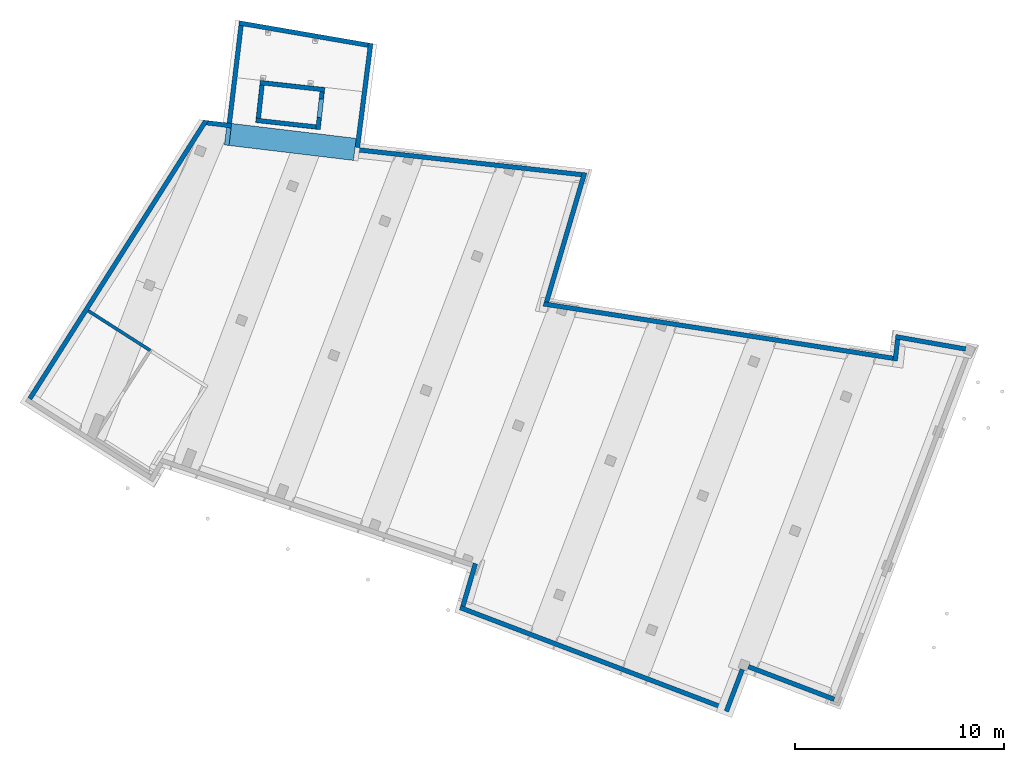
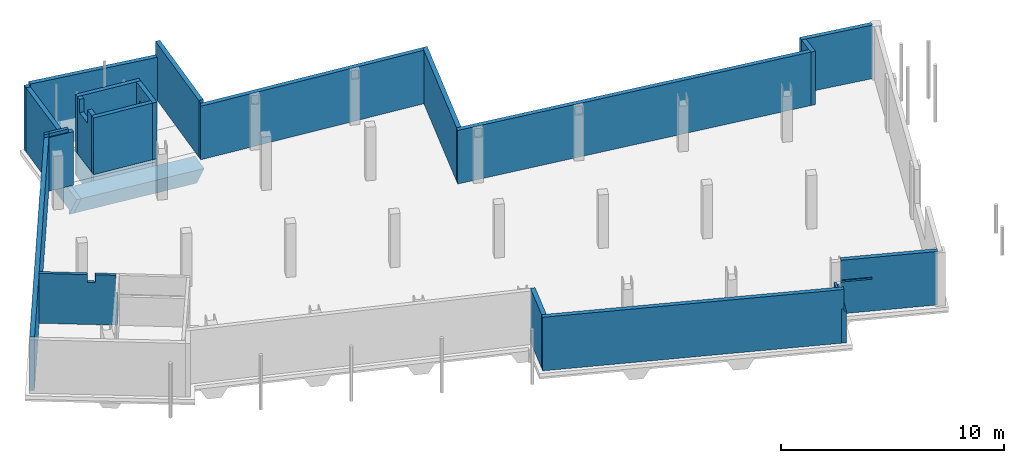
# One storey, part 7 of 11: 24 walls, 3 openings.
"""IFC2X3 building model written with IfcOpenShell, lengths in millimetres."""

from ifc_helpers import new_model, entity, si_unit, converted_unit, derived_unit, direction, frame, frame_2d, origin, place, context, subcontext, project, spatial, polyline, rectangle, outline, extrude, clip, bounded_halfspace, faceted_brep, material, layer, layer_set, layer_usage, type_object, element, save


model = new_model("IFC2X3")

# Units and contexts
model_context = context("Model", 3, precision=0.01, world=origin(), true_north=direction((6.123233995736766e-17, 1.0)))
body_context = subcontext(model_context, "Body", "Model", "MODEL_VIEW")
ifc_project = project(units=[si_unit("LENGTHUNIT", "METRE", prefix="MILLI"), converted_unit("PLANEANGLEUNIT", "DEGREE", entity("IfcPlaneAngleMeasure", 0.017453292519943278), si_unit("PLANEANGLEUNIT", "RADIAN"), dimensions=[0, 0, 0, 0, 0, 0, 0]), si_unit("AREAUNIT", "SQUARE_METRE"), derived_unit("THERMALTRANSMITTANCEUNIT", [(si_unit("MASSUNIT", "GRAM", prefix="KILO"), 1), (si_unit("THERMODYNAMICTEMPERATUREUNIT", "KELVIN"), -1), (si_unit("TIMEUNIT", "SECOND"), -3)])], contexts=[model_context])

# Site, building, storey
site_placement = place(None, frame((-72937.88054949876, 11621.45624098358, 0.0), z_axis=(0.0, 0.0, 1.0), x_axis=(0.9346418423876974, -0.35559053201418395, 0.0)))
site = spatial("IfcSite", under=ifc_project, at=site_placement, Name="Default", CompositionType="ELEMENT")
building_placement = place(site_placement, origin())
building = spatial("IfcBuilding", under=site, at=building_placement, CompositionType="ELEMENT")
storey_placement = place(building_placement, frame((0.0, 0.0, -3160.0)))
storey = spatial("IfcBuildingStorey", under=building, at=storey_placement, Name="-1 kelder", CompositionType="ELEMENT", Elevation=-3160.0)

# Wall, opening
ifc_material_1 = material(Name="beton_gewapend_ihw")
ifc_layer_1 = layer(ifc_material_1, 220.0)
ifc_layer_set_1 = layer_set([ifc_layer_1], Name="Basic Wall:22.21_WA_Beton 220mm")
ifc_layer_usage_1 = layer_usage(ifc_layer_set_1, "AXIS2", "NEGATIVE", 110.0)
wall_type_1 = type_object("IfcWallType", Name="22.21_muur", PredefinedType="STANDARD", material=ifc_layer_set_1)
wall_1_placement = place(storey_placement, frame((52730.0, 15000.0, 0.0), z_axis=(0.0, 0.0, 1.0), x_axis=(-1.0, 0.0, 0.0)))
wall_1 = element("IfcWallStandardCase", 1, at=wall_1_placement, inside=storey, type_object=wall_type_1, material=ifc_layer_usage_1, Name="Basic Wall:22.21_WA_Beton 220mm", ObjectType="Basic Wall:22.21_WA_Beton 220mm", context=body_context, shape_type="Clipping", body=[
    clip(extrude(rectangle(XDim=4394.999999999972, YDim=219.9999999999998, at=frame_2d((2197.499999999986, 5.471179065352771e-13), x_axis=(-1.0, 0.0))), origin(), (0.0, 0.0, 1.0), 2930.0), bounded_halfspace(frame((0.0, -110.0, 2930.0), z_axis=(0.0, 0.0, -1.0), x_axis=(-0.1996728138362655, -0.9798626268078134, 0.0)), True, frame((0.0, -110.0, 2930.0), z_axis=(0.0, 0.0, -1.0), x_axis=(-0.1996728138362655, -0.9798626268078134, 0.0)), polyline([(0.0, 0.0), (-215.56977789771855, 43.928019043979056), (-238.53215148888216, -68.75618303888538), (-786.6340254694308, -2758.479093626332), (-812.5914912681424, -2885.8612351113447), (-856.519510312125, -3101.4310130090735), (-1093.1317947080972, -4262.568225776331), (-877.5620168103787, -4306.4962448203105), (-22.9623735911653, -112.6842020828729), (0.0, 0.0)]))),
])
opening_1_placement = place(storey_placement, frame((52730.0, 15000.0, 0.0), z_axis=(0.0, 0.0, 1.0), x_axis=(-1.0, 0.0, 0.0)))
element("IfcOpeningElement", 2, at=opening_1_placement, cuts=wall_1, Name="Basic Wall:22.21_WA_Beton 220mm:1", ObjectType="Opening", context=body_context, shape_type="SweptSolid", body=[
    extrude(rectangle(XDim=109.99999999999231, YDim=1405.0000000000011, at=frame_2d((0.0, 4.320099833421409e-12), x_axis=(1.0, 0.0))), frame((3692.499999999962, 55.0, 1740.0), z_axis=(0.0, 0.0, 1.0), x_axis=(0.0, -1.0, 0.0)), (0.0, 0.0, 1.0), 120.00000000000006),
])

# Walls
ifc_layer_usage_2 = layer_usage(ifc_layer_set_1, "AXIS2", "NEGATIVE", 110.0)
wall_2_placement = place(storey_placement, frame((48110.0, 14775.0, 0.0), z_axis=(0.0, 0.0, 1.0), x_axis=(0.0, -1.0, 0.0)))
element("IfcWallStandardCase", 3, at=wall_2_placement, inside=storey, type_object=wall_type_1, material=ifc_layer_usage_2, Name="Basic Wall:22.21_WA_Beton 220mm", ObjectType="Basic Wall:22.21_WA_Beton 220mm", context=body_context, shape_type="Clipping", body=[
    clip(clip(extrude(rectangle(XDim=2152.0179214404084, YDim=220.00000000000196, at=frame_2d((1076.0089607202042, 0.0), x_axis=(-1.0, 0.0))), origin(), (0.0, 0.0, 1.0), 1860.0), bounded_halfspace(frame((0.0, 0.0, 1740.0), z_axis=(0.0, 0.0, -1.0), x_axis=(-1.0, 0.0, 0.0)), True, frame((0.0, 0.0, 1740.0), z_axis=(0.0, 0.0, -1.0), x_axis=(-1.0, 0.0, 0.0)), polyline([(0.0, 0.0), (0.0, 110.0), (-2152.0179214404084, 110.0), (-2152.0179214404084, 0.0), (0.0, 0.0)]))), bounded_halfspace(frame((2152.0179214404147, 0.0, 1740.0), z_axis=(0.0, -1.0, 0.0), x_axis=(0.0, 0.0, 1.0)), True, frame((2152.0179214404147, 0.0, 1740.0), z_axis=(0.0, -1.0, 0.0), x_axis=(0.0, 0.0, 1.0)), polyline([(0.0, 0.0), (120.0, 0.0), (120.0, 2152.0179214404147), (0.0, 2152.0179214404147), (0.0, 0.0)]))),
])
wall_3_placement = place(storey_placement, frame((48110.0, 12732.982078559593, 0.0), z_axis=(0.0, 0.0, 1.0), x_axis=(-1.0, 0.0, 0.0)))
element("IfcWall", 4, at=wall_3_placement, inside=storey, type_object=wall_type_1, Name="Basic Wall:22.21_WA_Beton 220mm", ObjectType="Basic Wall:22.21_WA_Beton 220mm", context=body_context, shape_type="Brep", body=[
    faceted_brep([(110.0, -110.0, 0.0), (13481.131771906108, -110.0, 0.0), (13701.813186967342, -110.0, 0.0), (13701.813186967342, -110.0, 2930.0), (13481.131771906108, -110.0, 2930.0), (0.0, -110.0, 2930.0), (0.0, -110.0, 1860.0), (110.0, -110.0, 1860.0), (13684.484397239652, 110.0, 0.0), (110.0, 110.0, 0.0), (110.0, 110.0, 1860.0), (0.0, 110.0, 1860.0), (0.0, 110.0, 2930.0), (13684.484397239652, 110.0, 2930.0)], [[[0, 1, 2, 3, 4, 5, 6, 7]], [[8, 9, 10, 11, 12, 13]], [[2, 1, 0, 9, 8]], [[2, 8, 13, 3]], [[11, 6, 5, 12]], [[6, 11, 10, 7]], [[9, 0, 7, 10]], [[5, 4, 3, 13, 12]]]),
])
ifc_layer_usage_3 = layer_usage(ifc_layer_set_1, "AXIS2", "NEGATIVE", 110.0)
wall_4_placement = place(storey_placement, frame((34519.20788359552, 12834.344437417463, 0.0), z_axis=(0.0, 0.0, 1.0), x_axis=(-0.07852401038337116, 0.9969122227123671, 0.0)))
element("IfcWallStandardCase", 5, at=wall_4_placement, inside=storey, type_object=wall_type_1, material=ifc_layer_usage_3, Name="Basic Wall:22.21_WA_Beton 220mm", ObjectType="Basic Wall:22.21_WA_Beton 220mm", context=body_context, shape_type="Clipping", body=[
    clip(extrude(outline(polyline([(2134.992372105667, -110.0), (2143.5858208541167, 110.0), (1923.4180499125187, 110.0), (17.328789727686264, 110.0), (0.0, -110.0), (2134.992372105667, -110.0)])), origin(), (0.0, 0.0, 1.0), 2930.0), bounded_halfspace(frame((0.0, -110.0, 2930.0), z_axis=(0.0, 0.0, -1.0), x_axis=(0.9611579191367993, -0.2759990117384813, 0.0)), True, frame((0.0, -110.0, 2930.0), z_axis=(0.0, 0.0, -1.0), x_axis=(0.9611579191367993, -0.2759990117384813, 0.0)), polyline([(0.0, 0.0), (-44.0640791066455, -216.23747104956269), (1787.988707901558, -742.3162231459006), (1999.6047044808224, -803.0823103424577), (2052.0648257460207, -589.2557847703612), (0.0, 0.0)]))),
])
ifc_layer_usage_4 = layer_usage(ifc_layer_set_1, "AXIS2", "NEGATIVE", 110.0)
wall_5_placement = place(storey_placement, frame((11585.967735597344, 14756.93719287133, 0.0), z_axis=(0.0, 0.0, 1.0), x_axis=(0.19967281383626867, 0.9798626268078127, 0.0)))
element("IfcWallStandardCase", 6, at=wall_5_placement, inside=storey, type_object=wall_type_1, material=ifc_layer_usage_4, Name="Basic Wall:22.21_WA_Beton 220mm", ObjectType="Basic Wall:22.21_WA_Beton 220mm", context=body_context, shape_type="Clipping", body=[
    clip(clip(extrude(outline(polyline([(15840.016964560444, -110.0), (15735.040849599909, 110.0), (0.0, 110.0), (0.0, -110.0), (15596.254816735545, -110.0), (15840.016964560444, -110.0)])), origin(), (0.0, 0.0, 1.0), 3100.0), bounded_halfspace(frame((15662.73540250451, -110.0, 2930.0), z_axis=(0.0, 0.0, -1.0), x_axis=(1.0, 0.0, 0.0)), True, frame((15662.73540250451, -110.0, 2930.0), z_axis=(0.0, 0.0, -1.0), x_axis=(1.0, 0.0, 0.0)), polyline([(0.0, 0.0), (-66.48058576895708, 0.0), (-15662.735402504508, 0.0), (-15662.735402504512, -220.0), (-104.97611496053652, -220.0), (0.0, 0.0)]))), bounded_halfspace(frame((15557.759287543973, 110.0, 2930.0), z_axis=(0.9025191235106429, 0.43064977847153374, 0.0), x_axis=(0.0, 0.0, 1.0)), True, frame((15557.759287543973, 110.0, 2930.0), z_axis=(0.9025191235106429, 0.43064977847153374, 0.0), x_axis=(0.0, 0.0, 1.0)), polyline([(0.0, 0.0), (170.0, 0.0), (170.0, 243.76214782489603), (0.0, 243.76214782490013), (0.0, 0.0)]))),
])
ifc_layer_usage_5 = layer_usage(ifc_layer_set_1, "AXIS2", "NEGATIVE", 110.0)
wall_6_placement = place(storey_placement, frame((52650.088888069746, 32927.36828828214, 0.0), z_axis=(0.0, 0.0, 1.0), x_axis=(-0.9822397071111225, -0.18763037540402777, 0.0)))
element("IfcWallStandardCase", 7, at=wall_6_placement, inside=storey, type_object=wall_type_1, material=ifc_layer_usage_5, Name="Basic Wall:22.21_WA_Beton 220mm", ObjectType="Basic Wall:22.21_WA_Beton 220mm", context=body_context, shape_type="Clipping", body=[
    clip(extrude(outline(polyline([(3411.118875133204, -110.0), (3396.9713056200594, 110.0), (3176.5168801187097, 110.0), (56.73587512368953, 110.0), (0.0, 110.0), (0.0, -110.0), (14.710815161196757, -110.0), (3411.118875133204, -110.0)])), origin(), (0.0, 0.0, 1.0), 2930.0), bounded_halfspace(frame((14.710815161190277, -110.0, 2930.0), z_axis=(0.0, 0.0, -1.0), x_axis=(-0.37997855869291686, -0.9249952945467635, 0.0)), True, frame((14.710815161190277, -110.0, 2930.0), z_axis=(0.0, 0.0, -1.0), x_axis=(-0.37997855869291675, -0.9249952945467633, 0.0)), polyline([(0.0, 0.0), (5.589794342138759, 13.607434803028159), (-197.90917045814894, 97.20271771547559), (-219.4675865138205, 44.72230019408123), (-1404.9174762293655, -2841.06044944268), (-1488.6854310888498, -3044.9797556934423), (-1290.5622393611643, -3141.661473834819), (0.0, 0.0)]))),
])
ifc_layer_usage_6 = layer_usage(ifc_layer_set_1, "AXIS2", "NEGATIVE", 110.0)
wall_7_placement = place(storey_placement, frame((49440.58725850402, 32209.47754630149, 0.0), z_axis=(0.0, 0.0, 1.0), x_axis=(0.2502784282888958, -0.9681739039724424, 0.0)))
element("IfcWallStandardCase", 8, at=wall_7_placement, inside=storey, type_object=wall_type_1, material=ifc_layer_usage_6, Name="Basic Wall:22.21_WA_Beton 220mm", ObjectType="Basic Wall:22.21_WA_Beton 220mm", context=body_context, shape_type="Clipping", body=[
    clip(extrude(outline(polyline([(1041.2983913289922, -110.0), (1050.9208709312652, 110.0), (14.147569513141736, 110.0), (0.0, -110.0), (821.0880552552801, -110.0), (1041.2983913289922, -110.0)])), origin(), (0.0, 0.0, 1.0), 2930.0), bounded_halfspace(frame((821.0880552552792, -110.0, 2930.0), z_axis=(0.0, 0.0, -1.0), x_axis=(-0.8987036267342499, 0.43855648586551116, 0.0)), True, frame((821.0880552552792, -110.0, 2930.0), z_axis=(0.0, 0.0, -1.0), x_axis=(-0.8987036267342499, 0.43855648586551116, 0.0)), polyline([(0.0, 0.0), (737.9148131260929, -360.09349209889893), (821.6827679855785, -156.1741858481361), (-110.06915810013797, 298.5094698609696), (-197.90382767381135, 96.57467113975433), (0.0, 0.0)]))),
])
ifc_layer_usage_7 = layer_usage(ifc_layer_set_1, "AXIS2", "NEGATIVE", 110.0)
wall_8_placement = place(storey_placement, frame((49571.85199044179, 31281.389395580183, 0.0), z_axis=(0.0, 0.0, 1.0), x_axis=(-0.9781855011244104, -0.20773330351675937, 0.0)))
element("IfcWallStandardCase", 9, at=wall_8_placement, inside=storey, type_object=wall_type_1, material=ifc_layer_usage_7, Name="Basic Wall:22.21_WA_Beton 220mm", ObjectType="Basic Wall:22.21_WA_Beton 220mm", context=body_context, shape_type="Clipping", body=[
    clip(extrude(outline(polyline([(16945.537221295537, -110.0), (16974.758350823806, 110.0), (16254.28166288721, 110.0), (15794.246220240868, 110.0), (11418.798010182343, 110.0), (10958.762567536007, 110.0), (0.0, 110.0), (9.622479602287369, -110.0), (16723.605082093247, -110.0), (16945.537221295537, -110.0)])), origin(), (0.0, 0.0, 1.0), 2930.0), bounded_halfspace(frame((16723.605082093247, -110.0, 2930.0), z_axis=(0.0, 0.0, -1.0), x_axis=(-0.398867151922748, -0.9170087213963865, 0.0)), True, frame((16723.605082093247, -110.0, 2930.0), z_axis=(0.0, 0.0, -1.0), x_axis=(-0.398867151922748, -0.9170087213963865, 0.0)), polyline([(0.0, 0.0), (6666.658637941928, 15326.867815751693), (6468.754810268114, 15423.44248689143), (2097.66439635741, 5374.161636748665), (1914.1713695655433, 4952.305123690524), (168.94880363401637, 939.9809550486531), (-14.54422315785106, 518.1244419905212), (-301.91870770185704, -142.5589644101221), (-88.52144028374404, -203.5137072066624), (0.0, 0.0)]))),
])
ifc_layer_usage_8 = layer_usage(ifc_layer_set_1, "AXIS2", "NEGATIVE", 110.0)
wall_9_placement = place(storey_placement, frame((33082.794822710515, 27877.321681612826, 0.0), z_axis=(0.0, 0.0, 1.0), x_axis=(-0.07713007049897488, 0.997021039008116, 0.0)))
element("IfcWallStandardCase", 10, at=wall_9_placement, inside=storey, type_object=wall_type_1, material=ifc_layer_usage_8, Name="Basic Wall:22.21_WA_Beton 220mm", ObjectType="Basic Wall:22.21_WA_Beton 220mm", context=body_context, shape_type="Clipping", body=[
    clip(extrude(outline(polyline([(6494.915560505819, -110.0), (6455.8984073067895, 110.0), (6232.465334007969, 110.0), (0.0, 110.0), (29.221129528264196, -110.0), (6494.915560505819, -110.0)])), origin(), (0.0, 0.0, 1.0), 2930.0), bounded_halfspace(frame((29.221129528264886, -110.0, 2930.0), z_axis=(0.0, 0.0, -1.0), x_axis=(0.9615428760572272, -0.274654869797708, 0.0)), True, frame((29.221129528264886, -110.0, 2930.0), z_axis=(0.0, 0.0, -1.0), x_axis=(0.9615428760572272, -0.274654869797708, 0.0)), polyline([(0.0, 0.0), (-88.52144028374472, -203.51370720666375), (5904.261201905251, -1915.2906620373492), (6119.1016818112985, -1976.6576436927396), (6217.042418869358, -1775.8344620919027), (0.0, 0.0)]))),
])
ifc_layer_usage_9 = layer_usage(ifc_layer_set_1, "AXIS2", "NEGATIVE", 110.0)
wall_10_placement = place(storey_placement, frame((32502.68415745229, 34198.99830234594, 0.0), z_axis=(0.0, 0.0, 1.0), x_axis=(-0.968232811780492, -0.25005043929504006, 0.0)))
element("IfcWallStandardCase", 11, at=wall_10_placement, inside=storey, type_object=wall_type_1, material=ifc_layer_usage_9, Name="Basic Wall:22.21_WA_Beton 220mm", ObjectType="Basic Wall:22.21_WA_Beton 220mm", context=body_context, shape_type="Clipping", body=[
    clip(clip(extrude(outline(polyline([(10954.823780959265, -110.0), (10958.296691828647, 110.0), (8567.350336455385, 110.0), (8102.586082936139, 110.0), (3682.1616272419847, 110.0), (3217.3973737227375, 110.0), (39.01715319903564, 110.0), (0.0, -110.0), (10734.79637105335, -110.0), (10954.823780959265, -110.0)])), origin(), (0.0, 0.0, 1.0), 3100.0), bounded_halfspace(frame((10954.823780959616, -110.0, 2930.0), z_axis=(0.0, 0.0, -1.0), x_axis=(-0.43834485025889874, -0.8988068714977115, 0.0)), True, frame((10954.823780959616, -110.0, 2930.0), z_axis=(0.0, 0.0, -1.0), x_axis=(-0.43834485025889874, -0.8988068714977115, 0.0)), polyline([(0.0, 0.0), (4801.99058987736, 9846.270890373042), (4587.150109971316, 9907.637872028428), (3193.9235081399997, 7050.887889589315), (2990.1964910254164, 6633.154584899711), (1052.5261949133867, 2660.0467091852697), (848.7991777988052, 2242.3134044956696), (-198.7761522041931, 94.30618036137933), (0.0, 0.0)]))), bounded_halfspace(frame((10957.193240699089, 110.0, 2930.0), z_axis=(0.9999420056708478, -0.010769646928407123, 0.0), x_axis=(0.0, 0.0, 1.0)), True, frame((10957.193240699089, 110.0, 2930.0), z_axis=(0.9999420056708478, -0.010769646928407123, 0.0), x_axis=(0.0, 0.0, 1.0)), polyline([(0.0, 0.0), (170.0, 0.0), (170.0, 220.0127594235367), (0.0, 220.0127594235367), (0.0, 0.0)]))),
])
ifc_layer_usage_10 = layer_usage(ifc_layer_set_1, "AXIS2", "NEGATIVE", 110.0)
wall_11_placement = place(storey_placement, frame((20716.83718624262, 36355.47343200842, -1300.0), z_axis=(0.0, 0.0, 1.0), x_axis=(-0.9814821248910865, -0.1915537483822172, 0.0)))
element("IfcWallStandardCase", 12, at=wall_11_placement, inside=storey, type_object=wall_type_1, material=ifc_layer_usage_10, Name="Basic Wall:22.21_WA_Beton 220mm", ObjectType="Basic Wall:22.21_WA_Beton 220mm", context=body_context, shape_type="Clipping", body=[
    clip(clip(extrude(outline(polyline([(6285.172325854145, -110.0), (6273.844728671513, 110.0), (6053.553297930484, 110.0), (4954.314160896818, 110.0), (4710.27330013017, 110.0), (2671.479308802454, 110.0), (2421.0136747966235, 110.0), (0.0, 110.0), (9.730940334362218, -110.0), (6285.172325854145, -110.0)])), origin(), (0.0, 0.0, 1.0), 3659.9999999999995), bounded_halfspace(frame((6053.55329793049, 110.0, 3510.0), z_axis=(0.0, 0.0, -1.0), x_axis=(0.9986770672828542, 0.05142096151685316, 0.0)), True, frame((6053.55329793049, 110.0, 3510.0), z_axis=(0.0, 0.0, -1.0), x_axis=(0.9986770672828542, 0.05142096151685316, 0.0)), polyline([(0.0, 0.0), (220.0, 11.327597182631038), (220.0, 231.61902792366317), (0.0, 220.29143074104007), (0.0, 0.0)]))), bounded_halfspace(frame((6064.880895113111, -110.0, 3510.0), z_axis=(-0.9986770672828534, -0.05142096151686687, 0.0), x_axis=(0.0, 0.0, 1.0)), True, frame((6064.880895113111, -110.0, 3510.0), z_axis=(-0.9986770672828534, -0.05142096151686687, 0.0), x_axis=(0.0, 0.0, 1.0)), polyline([(0.0, 0.0), (150.0, 0.0), (150.0, 220.2914307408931), (0.0, 220.29143074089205), (0.0, 0.0)]))),
])
wall_12_placement = place(storey_placement, frame((14686.978362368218, 35072.3265236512, -1550.0), z_axis=(0.0, 0.0, 1.0), x_axis=(0.24176909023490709, -0.9703338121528, 0.0)))
element("IfcWall", 13, at=wall_12_placement, inside=storey, type_object=wall_type_1, Name="Basic Wall:22.21_WA_Beton 220mm", ObjectType="Basic Wall:22.21_WA_Beton 220mm", context=body_context, shape_type="Brep", body=[
    faceted_brep([(4934.433905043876, -110.0, 0.0), (5778.007530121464, -110.0, 1350.0), (4714.433905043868, -110.0, 1350.0), (4714.43390504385, -110.0, 3760.0), (0.0, -110.0, 3760.0), (0.0, -110.0, 250.0), (4934.433905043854, -110.0, 250.0), (5778.007530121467, 110.0, 1350.0), (4934.43390504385, 110.0, 0.0), (4934.43390504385, 110.0, 250.0), (4714.433905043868, 110.0, 250.0), (11.327597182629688, 110.0, 250.0), (11.327597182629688, 110.0, 3760.0), (4714.433905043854, 110.0, 3760.0), (4714.433905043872, 110.0, 1550.0), (4714.433905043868, 110.0, 1350.0)], [[[0, 1, 2, 3, 4, 5, 6]], [[7, 8, 9, 10, 11, 12, 13, 14, 15]], [[11, 5, 4, 12]], [[1, 0, 8, 7]], [[2, 15, 14, 13, 3]], [[15, 2, 1, 7]], [[9, 6, 5, 11, 10]], [[6, 9, 8, 0]], [[4, 3, 13, 12]]]),
])
wall_13_placement = place(storey_placement, frame((15960.114077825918, 30417.60978101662, 0.0), z_axis=(0.0, 0.0, 1.0), x_axis=(-0.9703338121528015, -0.24176909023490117, 0.0)))
element("IfcWall", 14, at=wall_13_placement, inside=storey, type_object=wall_type_1, Name="Basic Wall:22.21_WA_Beton 220mm", ObjectType="Basic Wall:22.21_WA_Beton 220mm", context=body_context, shape_type="Brep", body=[
    faceted_brep([(0.0, -110.0, 0.0), (1109.8717589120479, -110.0, 0.0), (1109.8717589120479, -110.0, 3100.0), (220.0, -110.0, 3100.0), (220.0, -110.0, 2930.0), (0.0, -110.0, 2930.0), (0.0, -110.0, 2360.0), (1214.8478738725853, 110.0, 0.0), (0.0, 110.0, 0.0), (0.0, 110.0, 2930.0), (1214.8478738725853, 110.0, 2930.0), (1186.2180243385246, 50.00000000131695, 3100.0), (220.0, 50.00000000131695, 3100.0), (1186.2180243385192, 50.00000000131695, 2930.0), (220.0, 50.00000000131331, 2930.0)], [[[0, 1, 2, 3, 4, 5, 6]], [[7, 8, 9, 10]], [[1, 0, 8, 7]], [[3, 2, 11, 12]], [[8, 0, 6, 5, 9]], [[2, 1, 7, 10, 13, 11]], [[4, 14, 13, 10, 9, 5]], [[14, 4, 3, 12]], [[14, 12, 11, 13]]]),
])
ifc_layer_usage_11 = layer_usage(ifc_layer_set_1, "AXIS2", "NEGATIVE", 110.0)
wall_14_placement = place(storey_placement, frame((21975.28526584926, 31592.066450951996, 0.0), z_axis=(0.0, 0.0, 1.0), x_axis=(-0.23473671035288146, 0.9720589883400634, 0.0)))
element("IfcWallStandardCase", 15, at=wall_14_placement, inside=storey, type_object=wall_type_1, material=ifc_layer_usage_11, Name="Basic Wall:22.21_WA_Beton 220mm", ObjectType="Basic Wall:22.21_WA_Beton 220mm", context=body_context, shape_type="SweptSolid", body=[
    extrude(outline(polyline([(5026.308141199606, -110.0), (5036.039081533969, 110.0), (423.88206665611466, 110.0), (0.0, 110.0), (3.4729108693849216, -110.0), (193.49658306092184, -110.0), (5026.308141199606, -110.0)])), origin(), (0.0, 0.0, 1.0), 3100.0),
])
ifc_layer_2 = layer(ifc_material_1, 220.0)
ifc_layer_set_2 = layer_set([ifc_layer_2], Name="Basic Wall:22.21_WA_Beton var")
wall_type_2 = type_object("IfcWallType", Name="22.21_muur", PredefinedType="STANDARD", material=ifc_layer_set_2)
wall_15_placement = place(storey_placement, frame((21795.45269515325, 31871.54706636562, -1550.0), z_axis=(0.0, 0.0, 1.0), x_axis=(-0.9703338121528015, -0.24176909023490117, 0.0)))
element("IfcWall", 16, at=wall_15_placement, inside=storey, type_object=wall_type_2, Name="Basic Wall:22.21_WA_Beton var", ObjectType="Basic Wall:22.21_WA_Beton var", context=body_context, shape_type="Brep", body=[
    faceted_brep([(6013.74346049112, -110.0, 1350.0), (0.0, -110.0, 1350.0), (0.0, -110.0, 250.0), (6013.743460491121, -110.0, 250.0), (7.701379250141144, 953.5736250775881, 1350.0), (1670.556361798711, 953.5736250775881, 1350.0), (3061.8301513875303, 953.5736250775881, 1350.0), (6013.743460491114, 953.5736250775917, 1350.0), (6013.743460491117, 110.0, 0.0), (1.5930288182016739, 110.0, 0.0), (6013.743460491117, 110.0, 250.0), (1.5930288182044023, 110.0, 250.0)], [[[0, 1, 2, 3]], [[4, 5, 6, 7, 8, 9]], [[1, 0, 7, 6, 5, 4]], [[8, 7, 0, 3, 10]], [[4, 9, 11, 2, 1]], [[11, 10, 3, 2]], [[10, 11, 9, 8]]]),
])
ifc_material_2 = material(Name="beton_gewapend_ihw_c30/37")
ifc_layer_3 = layer(ifc_material_2, 220.0)
ifc_layer_set_3 = layer_set([ifc_layer_3], Name="Basic Wall:22.21_WA_Beton 220mm - C30/37")
ifc_layer_usage_12 = layer_usage(ifc_layer_set_3, "AXIS2", "NEGATIVE", 110.0)
wall_type_3 = type_object("IfcWallType", Name="22.21_muur", PredefinedType="STANDARD", material=ifc_layer_set_3)
wall_16_placement = place(storey_placement, frame((16506.685394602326, 32838.31645662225, -1300.0), z_axis=(0.0, 0.0, 1.0), x_axis=(0.9679826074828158, 0.2510172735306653, 0.0)))
element("IfcWallStandardCase", 17, at=wall_16_placement, inside=storey, type_object=wall_type_3, material=ifc_layer_usage_12, Name="Basic Wall:22.21_WA_Beton 220mm - C30/37", ObjectType="Basic Wall:22.21_WA_Beton 220mm - C30/37", context=body_context, shape_type="SweptSolid", body=[
    extrude(rectangle(XDim=3119.999999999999, YDim=219.99999999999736, at=frame_2d((1559.9999999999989, -2.8634872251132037e-12), x_axis=(-1.0, 0.0))), origin(), (0.0, 0.0, 1.0), 1300.0000000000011),
])
ifc_layer_usage_13 = layer_usage(ifc_layer_set_3, "AXIS2", "NEGATIVE", 110.0)
wall_17_placement = place(storey_placement, frame((19447.924943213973, 33487.400363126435, -1300.0), z_axis=(0.0, 0.0, 1.0), x_axis=(0.25101727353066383, -0.9679826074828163, 0.0)))
element("IfcWallStandardCase", 18, at=wall_17_placement, inside=storey, type_object=wall_type_3, material=ifc_layer_usage_13, Name="Basic Wall:22.21_WA_Beton 220mm - C30/37", ObjectType="Basic Wall:22.21_WA_Beton 220mm - C30/37", context=body_context, shape_type="SweptSolid", body=[
    extrude(rectangle(XDim=1820.0000000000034, YDim=220.00000000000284, at=frame_2d((910.0000000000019, 1.0871303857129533e-12), x_axis=(-1.0, 0.0))), origin(), (0.0, 0.0, 1.0), 1300.0000000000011),
])
ifc_layer_usage_14 = layer_usage(ifc_layer_set_3, "AXIS2", "NEGATIVE", 110.0)
wall_18_placement = place(storey_placement, frame((19770.686394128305, 31804.538204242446, -1300.0), z_axis=(0.0, 0.0, 1.0), x_axis=(-0.9679826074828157, -0.251017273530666, 0.0)))
element("IfcWallStandardCase", 19, at=wall_18_placement, inside=storey, type_object=wall_type_3, material=ifc_layer_usage_14, Name="Basic Wall:22.21_WA_Beton 220mm - C30/37", ObjectType="Basic Wall:22.21_WA_Beton 220mm - C30/37", context=body_context, shape_type="SweptSolid", body=[
    extrude(rectangle(XDim=2900.000000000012, YDim=219.9999999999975, at=frame_2d((1450.000000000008, -2.2737367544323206e-13), x_axis=(-1.0, 0.0))), origin(), (0.0, 0.0, 1.0), 1300.0),
])
ifc_layer_usage_15 = layer_usage(ifc_layer_set_3, "AXIS2", "NEGATIVE", 110.0)
wall_19_placement = place(storey_placement, frame((17042.403019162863, 31210.67809791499, -1300.0), z_axis=(0.0, 0.0, 1.0), x_axis=(-0.2510172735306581, 0.9679826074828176, 0.0)))
element("IfcWallStandardCase", 20, at=wall_19_placement, inside=storey, type_object=wall_type_3, material=ifc_layer_usage_15, Name="Basic Wall:22.21_WA_Beton 220mm - C30/37", ObjectType="Basic Wall:22.21_WA_Beton 220mm - C30/37", context=body_context, shape_type="SweptSolid", body=[
    extrude(rectangle(XDim=1600.0000000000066, YDim=220.0000000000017, at=frame_2d((800.0000000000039, 1.0516032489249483e-12), x_axis=(-1.0, 0.0))), origin(), (0.0, 0.0, 1.0), 1300.0),
])
ifc_material_3 = material(Name="steenachtig_kalkzandsteen_generiek")
ifc_layer_4 = layer(ifc_material_3, 214.0)
ifc_layer_set_4 = layer_set([ifc_layer_4], Name="Basic Wall:22.21_WA_Kalkzandsteen214mm")
ifc_layer_usage_16 = layer_usage(ifc_layer_set_4, "AXIS2", "NEGATIVE", 107.0)
wall_type_4 = type_object("IfcWallType", Name="NLRS_22_WA_LIB_Muur_gen_EPA:Kalkzandsteen 200mm", PredefinedType="STANDARD", material=ifc_layer_set_4)
wall_20_placement = place(storey_placement, frame((16513.246342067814, 32836.91861244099, 0.0), z_axis=(0.0, 0.0, 1.0), x_axis=(0.9679826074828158, 0.2510172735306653, 0.0)))
element("IfcWallStandardCase", 21, at=wall_20_placement, inside=storey, type_object=wall_type_4, material=ifc_layer_usage_16, Name="Basic Wall:22.21_WA_Kalkzandsteen214mm", ObjectType="Basic Wall:22.21_WA_Kalkzandsteen214mm", context=body_context, shape_type="SweptSolid", body=[
    extrude(rectangle(XDim=3107.9999999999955, YDim=214.00000000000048, at=frame_2d((1553.9999999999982, -2.9274360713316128e-12), x_axis=(-1.0, 0.0))), origin(), (0.0, 0.0, 1.0), 3100.000000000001),
])

# Wall, opening
ifc_layer_usage_17 = layer_usage(ifc_layer_set_4, "AXIS2", "NEGATIVE", 107.0)
wall_21_placement = place(storey_placement, frame((19445.02099539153, 33486.647311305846, 0.0), z_axis=(0.0, 0.0, 1.0), x_axis=(0.25101727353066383, -0.9679826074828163, 0.0)))
wall_21 = element("IfcWallStandardCase", 22, at=wall_21_placement, inside=storey, type_object=wall_type_4, material=ifc_layer_usage_17, Name="Basic Wall:22.21_WA_Kalkzandsteen214mm", ObjectType="Basic Wall:22.21_WA_Kalkzandsteen214mm", context=body_context, shape_type="SweptSolid", body=[
    extrude(rectangle(XDim=1814.0000000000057, YDim=213.99999999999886, at=frame_2d((907.0000000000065, -3.531397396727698e-12), x_axis=(1.0, 0.0))), origin(), (0.0, 0.0, 1.0), 3100.000000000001),
])
opening_2_placement = place(wall_21_placement, frame((27533.456026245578, -27228.16903344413, 0.0)))
element("IfcOpeningElement", 23, at=opening_2_placement, cuts=wall_21, Name="31.10_Constructiesparing", ObjectType="Opening", context=body_context, shape_type="SweptSolid", body=[
    extrude(rectangle(XDim=2299.999999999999, YDim=900.0000000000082, at=frame_2d((1.1368683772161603e-13, 2.1032064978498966e-12), x_axis=(1.0, 0.0))), frame((-26733.455594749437, 27121.169033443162, 1150.0), z_axis=(0.0, 1.0, 0.0), x_axis=(0.0, 0.0, -1.0)), (0.0, 0.0, 1.0), 214.00000000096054),
])

# Wall
ifc_layer_usage_18 = layer_usage(ifc_layer_set_4, "AXIS2", "NEGATIVE", 107.0)
wall_22_placement = place(storey_placement, frame((19769.933342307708, 31807.44215206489, 0.0), z_axis=(0.0, 0.0, 1.0), x_axis=(-0.9679826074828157, -0.251017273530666, 0.0)))
element("IfcWallStandardCase", 24, at=wall_22_placement, inside=storey, type_object=wall_type_4, material=ifc_layer_usage_18, Name="Basic Wall:22.21_WA_Kalkzandsteen214mm", ObjectType="Basic Wall:22.21_WA_Kalkzandsteen214mm", context=body_context, shape_type="SweptSolid", body=[
    extrude(rectangle(XDim=2894.0000000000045, YDim=214.00000000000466, at=frame_2d((1447.0000000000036, -3.730349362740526e-12), x_axis=(-1.0, 0.0))), origin(), (0.0, 0.0, 1.0), 3100.000000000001),
])

# Wall, opening
ifc_layer_usage_19 = layer_usage(ifc_layer_set_4, "AXIS2", "NEGATIVE", 107.0)
wall_23_placement = place(storey_placement, frame((17045.306966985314, 31211.43114973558, 0.0), z_axis=(0.0, 0.0, 1.0), x_axis=(-0.2510172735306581, 0.9679826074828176, 0.0)))
wall_23 = element("IfcWallStandardCase", 25, at=wall_23_placement, inside=storey, type_object=wall_type_4, material=ifc_layer_usage_19, Name="Basic Wall:22.21_WA_Kalkzandsteen214mm", ObjectType="Basic Wall:22.21_WA_Kalkzandsteen214mm", context=body_context, shape_type="SweptSolid", body=[
    extrude(rectangle(XDim=1600.0000000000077, YDim=213.99999999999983, at=frame_2d((800.0000000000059, 4.760636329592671e-13), x_axis=(-1.0, 0.0))), origin(), (0.0, 0.0, 1.0), 3100.0),
])
opening_3_placement = place(wall_23_placement, frame((-25933.456026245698, 24334.169033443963, 2376.850338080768)))
element("IfcOpeningElement", 26, at=opening_3_placement, cuts=wall_23, Name="31.10_Constructiesparing", ObjectType="Opening", context=body_context, shape_type="SweptSolid", body=[
    extrude(rectangle(XDim=2299.9999999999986, YDim=900.0000000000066, at=frame_2d((0.0, -2.5579538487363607e-13), x_axis=(1.0, 0.0))), frame((26840.455596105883, -24441.16902639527, 1150.0), z_axis=(0.0, 1.0, 0.0), x_axis=(0.0, 0.0, -1.0)), (0.0, 0.0, 1.0), 214.00000000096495),
])

# Wall
ifc_layer_5 = layer(ifc_material_3, 150.0)
ifc_layer_set_5 = layer_set([ifc_layer_5], Name="Basic Wall:22.21_WA_Kalkzandsteen150mm")
wall_type_5 = type_object("IfcWallType", Name="NLRS_22_WA_LIB_Muur_gen_EPA:Kalkzandsteen 200mm", PredefinedType="STANDARD", material=ifc_layer_set_5)
wall_24_placement = place(storey_placement, frame((12703.080296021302, 19689.917613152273, 200.0), z_axis=(0.0, 0.0, 1.0), x_axis=(0.978878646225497, -0.2044421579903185, 0.0)))
element("IfcWall", 27, at=wall_24_placement, inside=storey, type_object=wall_type_5, Name="Basic Wall:22.21_WA_Kalkzandsteen150mm", ObjectType="Basic Wall:22.21_WA_Kalkzandsteen150mm", context=body_context, shape_type="Brep", body=[
    faceted_brep([(0.7304751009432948, -75.0, 0.0), (3450.81921429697, -75.0, 0.0), (3525.819214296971, -75.0, 0.0), (3525.819214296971, -75.0, 1560.0), (3525.819214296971, -75.0, 1710.0), (3450.81921429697, -75.0, 1710.0), (3450.81921429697, -75.0, 2730.0), (2540.9205476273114, -75.0, 2730.0), (2540.920547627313, -75.0, 2300.0), (2183.368565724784, -75.0, 2300.0), (2183.3685657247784, -75.0, 2730.0), (0.7304751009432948, -75.0, 2730.0), (3525.8192142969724, 75.0, 0.0), (0.0, 75.0, 0.0), (0.0, 75.0, 2730.0), (2152.0405519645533, 75.0, 2730.0), (2152.0405519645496, 75.0, 2300.0), (2509.592533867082, 75.0, 2300.0), (2509.5925338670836, 75.0, 2730.0), (3450.8192142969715, 75.0, 2730.0), (3450.8192142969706, 75.0, 1710.0), (3525.8192142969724, 75.0, 1710.0), (3525.8192142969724, 75.0, 1560.0)], [[[0, 1, 2, 3, 4, 5, 6, 7, 8, 9, 10, 11]], [[12, 13, 14, 15, 16, 17, 18, 19, 20, 21, 22]], [[2, 1, 0, 13, 12]], [[6, 19, 18, 7]], [[0, 11, 14, 13]], [[2, 12, 22, 21, 4, 3]], [[5, 4, 21, 20]], [[6, 5, 20, 19]], [[9, 16, 15, 10]], [[16, 9, 8, 17]], [[17, 8, 7, 18]], [[14, 11, 10, 15]]]),
])

save(model, "model.ifc")
